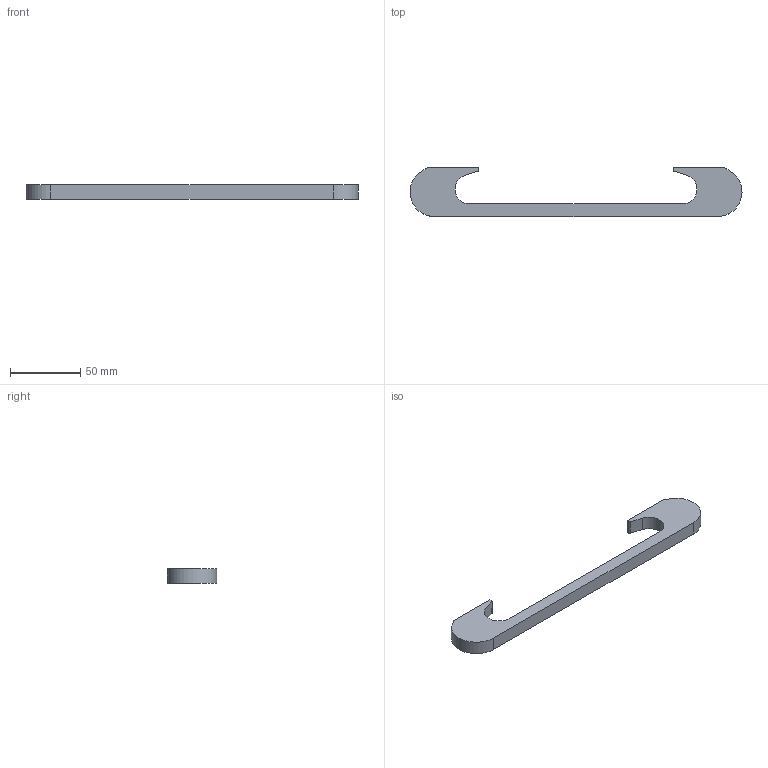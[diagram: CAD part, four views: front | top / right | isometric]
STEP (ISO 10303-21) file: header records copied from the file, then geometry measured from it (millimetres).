
FILE_DESCRIPTION( ( '' ), '1' );
FILE_NAME( 'D:/1.AUTOCAD EXPORT/Group 10/sheet_10_1/9131665.stp', '2013-10-17T08:12:17', ( '' ), ( '' ), ' ', ' ', ' ' );
FILE_SCHEMA( ( 'automotive_design' ) );
Length unit declared in the file: millimetre
Products named in the file (1): 1
Bounding box: 236 x 35 x 10 mm (x, y, z)
Volume: 36817.7 mm3; surface area: 14205.4 mm2
Topology: 1 solids, 1 shells, 24 faces, 60 edges, 40 vertices
Faces by surface type: cylinder 12, plane 12
Entity records: 1444 total; most frequent: DIRECTION 134, STYLED_ITEM 125, PRESENTATION_STYLE_ASSIGNMENT 125, CARTESIAN_POINT 125, COLOUR_RGB 125, ORIENTED_EDGE 120, EDGE_CURVE 60, CURVE_STYLE 60
